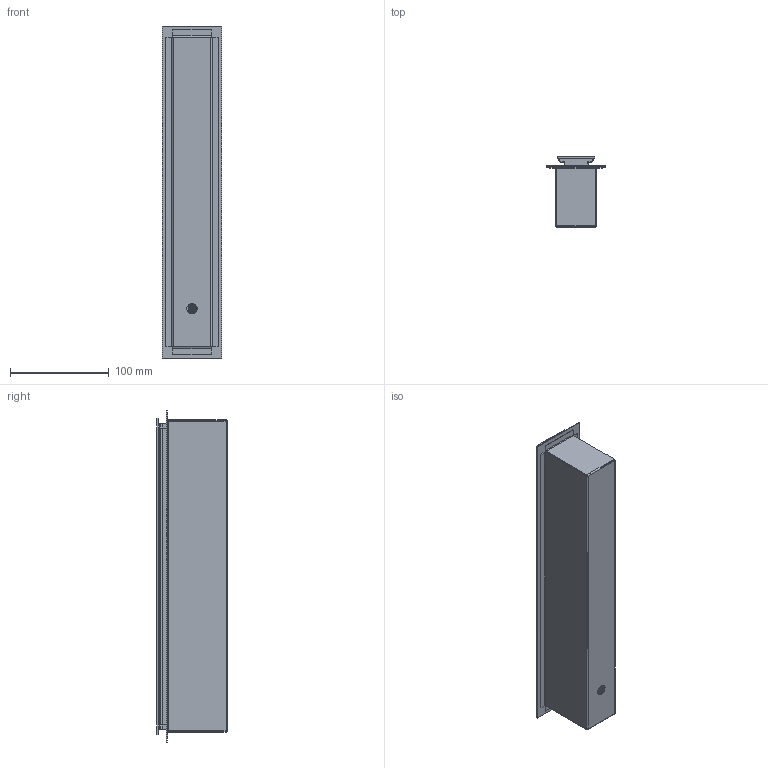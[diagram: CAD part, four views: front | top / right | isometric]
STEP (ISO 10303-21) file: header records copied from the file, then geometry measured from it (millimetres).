
FILE_DESCRIPTION (( 'STEP AP214' ), '1' );
FILE_NAME ('Dot Tilt 10.STEP', '2017-10-20T10:45:27', ( 'Ofitecnic3' ), ( 'Microsoft' ), 'SwSTEP 2.0', 'SolidWorks 2016', '' );
FILE_SCHEMA (( 'AUTOMOTIVE_DESIGN' ));
Length unit declared in the file: millimetre
Products named in the file (7): Perfil Tapa  BIM(SYSTEM CLICK)_LX10; Disipador BIM (DOT)_300 M3; Dot Tilt 10; Caja Interior BIM(DOT-TILT)_Caja 10X; M3  BIM-Avellanedo Torx_8; Tapa Lateral  BIM(DOT-DOT.TILT)_Tapa  Conj. Basculante; Led BIM (DOT)_10
Assembly tree (10 placements, depth 2):
  Dot Tilt 10
    Disipador BIM (DOT)_300 M3
    Perfil Tapa  BIM(SYSTEM CLICK)_LX10
    Led BIM (DOT)_10
    Tapa Lateral  BIM(DOT-DOT.TILT)_Tapa  Conj. Basculante  x2
    M3  BIM-Avellanedo Torx_8  x4
    Caja Interior BIM(DOT-TILT)_Caja 10X
Bounding box: 60.4 x 71.35 x 335.5 mm (x, y, z)
Volume: 238172.7 mm3; surface area: 214992.8 mm2
Topology: 19 solids, 19 shells, 601 faces, 1449 edges, 856 vertices
Faces by surface type: cylinder 255, plane 202, torus 56, sphere 44, cone 40, bspline 4
Entity records: 11433 total; most frequent: DIRECTION 2050, CARTESIAN_POINT 1944, ORIENTED_EDGE 1806, EDGE_CURVE 903, AXIS2_PLACEMENT_3D 768, VERTEX_POINT 554, VECTOR 514, LINE 514
